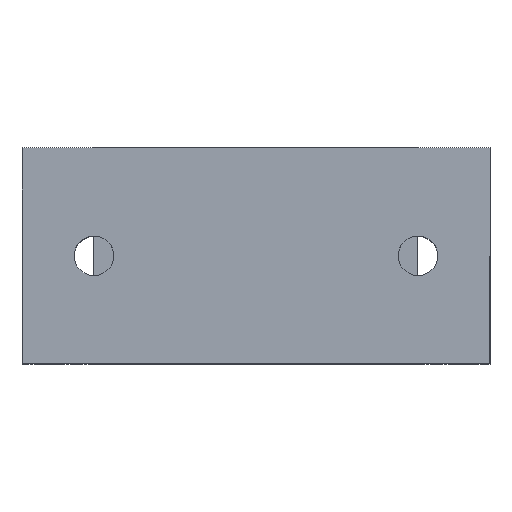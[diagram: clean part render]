
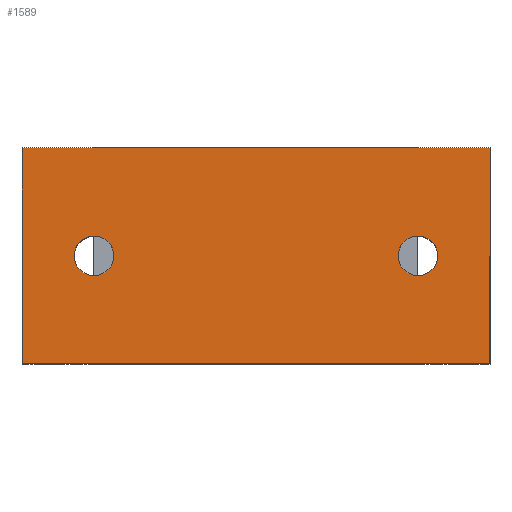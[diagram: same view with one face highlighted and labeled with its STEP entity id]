
A CAD part, top view. The second image highlights one B-rep face of the part: STEP entity #1589.
In plain terms, the highlighted planar face has unit normal (0, 0, 1).
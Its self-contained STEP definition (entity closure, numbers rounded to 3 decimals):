
#29 = CIRCLE ( 'NONE', #13992, 5.5 ) ;
#153 = ORIENTED_EDGE ( 'NONE', *, *, #6546, .T. ) ;
#242 = DIRECTION ( 'NONE',  ( 1., 0., 0. ) ) ;
#525 = VECTOR ( 'NONE', #8928, 1000. ) ;
#752 = DIRECTION ( 'NONE',  ( 0., 0., -1. ) ) ;
#840 = CARTESIAN_POINT ( 'NONE',  ( -65., 30., 21. ) ) ;
#864 = CARTESIAN_POINT ( 'NONE',  ( 39.5, 0., 21. ) ) ;
#1000 = VERTEX_POINT ( 'NONE', #1158 ) ;
#1065 = CARTESIAN_POINT ( 'NONE',  ( -65., 30., 21. ) ) ;
#1158 = CARTESIAN_POINT ( 'NONE',  ( -39.5, 0., 21. ) ) ;
#1530 = EDGE_CURVE ( 'NONE', #2537, #5830, #5476, .T. ) ;
#1589 = ADVANCED_FACE ( 'NONE', ( #11786, #8029, #8438 ), #10302, .T. ) ;
#1667 = CIRCLE ( 'NONE', #11857, 5.5 ) ;
#1864 = CARTESIAN_POINT ( 'NONE',  ( 65., 30., 21. ) ) ;
#2428 = CARTESIAN_POINT ( 'NONE',  ( 65., 30., 21. ) ) ;
#2537 = VERTEX_POINT ( 'NONE', #864 ) ;
#3223 = AXIS2_PLACEMENT_3D ( 'NONE', #5192, #14020, #6474 ) ;
#4796 = EDGE_CURVE ( 'NONE', #11461, #12064, #15508, .T. ) ;
#5050 = DIRECTION ( 'NONE',  ( 0., 0., -1. ) ) ;
#5192 = CARTESIAN_POINT ( 'NONE',  ( 45., 0., 21. ) ) ;
#5244 = CARTESIAN_POINT ( 'NONE',  ( -65., 30., 21. ) ) ;
#5442 = VECTOR ( 'NONE', #10958, 1000. ) ;
#5476 = CIRCLE ( 'NONE', #3223, 5.5 ) ;
#5830 = VERTEX_POINT ( 'NONE', #9556 ) ;
#5915 = ORIENTED_EDGE ( 'NONE', *, *, #7355, .F. ) ;
#6253 = DIRECTION ( 'NONE',  ( 1., 0., 0. ) ) ;
#6366 = CARTESIAN_POINT ( 'NONE',  ( 65., -30., 21. ) ) ;
#6474 = DIRECTION ( 'NONE',  ( -1., 0., 0. ) ) ;
#6546 = EDGE_CURVE ( 'NONE', #1000, #12041, #29, .T. ) ;
#7355 = EDGE_CURVE ( 'NONE', #15567, #9829, #13243, .T. ) ;
#7541 = DIRECTION ( 'NONE',  ( 0., 0., -1. ) ) ;
#7844 = DIRECTION ( 'NONE',  ( 0., 0., 1. ) ) ;
#8029 = FACE_BOUND ( 'NONE', #15596, .T. ) ;
#8340 = CARTESIAN_POINT ( 'NONE',  ( 45., 0., 21. ) ) ;
#8438 = FACE_OUTER_BOUND ( 'NONE', #9773, .T. ) ;
#8928 = DIRECTION ( 'NONE',  ( -1., 0., 0. ) ) ;
#8977 = CARTESIAN_POINT ( 'NONE',  ( 65., -30., 21. ) ) ;
#9149 = CARTESIAN_POINT ( 'NONE',  ( 65., 30., 21. ) ) ;
#9229 = ORIENTED_EDGE ( 'NONE', *, *, #15386, .F. ) ;
#9489 = VECTOR ( 'NONE', #6253, 1000. ) ;
#9556 = CARTESIAN_POINT ( 'NONE',  ( 50.5, 0., 21. ) ) ;
#9620 = DIRECTION ( 'NONE',  ( -1., 0., 0. ) ) ;
#9737 = EDGE_LOOP ( 'NONE', ( #14897, #153 ) ) ;
#9773 = EDGE_LOOP ( 'NONE', ( #5915, #9229, #13677, #10044 ) ) ;
#9804 = EDGE_CURVE ( 'NONE', #9829, #11461, #10637, .T. ) ;
#9829 = VERTEX_POINT ( 'NONE', #8977 ) ;
#10044 = ORIENTED_EDGE ( 'NONE', *, *, #9804, .F. ) ;
#10048 = AXIS2_PLACEMENT_3D ( 'NONE', #5244, #7844, #242 ) ;
#10302 = PLANE ( 'NONE',  #10048 ) ;
#10637 = LINE ( 'NONE', #6366, #525 ) ;
#10679 = AXIS2_PLACEMENT_3D ( 'NONE', #15090, #7541, #16375 ) ;
#10958 = DIRECTION ( 'NONE',  ( 0., 1., 0. ) ) ;
#11118 = CARTESIAN_POINT ( 'NONE',  ( -50.5, 0., 21. ) ) ;
#11258 = EDGE_CURVE ( 'NONE', #12041, #1000, #13983, .T. ) ;
#11461 = VERTEX_POINT ( 'NONE', #11671 ) ;
#11496 = ORIENTED_EDGE ( 'NONE', *, *, #1530, .T. ) ;
#11671 = CARTESIAN_POINT ( 'NONE',  ( -65., -30., 21. ) ) ;
#11786 = FACE_BOUND ( 'NONE', #9737, .T. ) ;
#11857 = AXIS2_PLACEMENT_3D ( 'NONE', #8340, #752, #9620 ) ;
#11991 = DIRECTION ( 'NONE',  ( 0., -1., 0. ) ) ;
#12041 = VERTEX_POINT ( 'NONE', #11118 ) ;
#12064 = VERTEX_POINT ( 'NONE', #1065 ) ;
#12629 = CARTESIAN_POINT ( 'NONE',  ( -45., 0., 21. ) ) ;
#13206 = LINE ( 'NONE', #2428, #9489 ) ;
#13243 = LINE ( 'NONE', #1864, #16219 ) ;
#13352 = EDGE_CURVE ( 'NONE', #5830, #2537, #1667, .T. ) ;
#13677 = ORIENTED_EDGE ( 'NONE', *, *, #4796, .F. ) ;
#13873 = DIRECTION ( 'NONE',  ( -1., 0., 0. ) ) ;
#13983 = CIRCLE ( 'NONE', #10679, 5.5 ) ;
#13992 = AXIS2_PLACEMENT_3D ( 'NONE', #12629, #5050, #13873 ) ;
#14020 = DIRECTION ( 'NONE',  ( 0., 0., -1. ) ) ;
#14897 = ORIENTED_EDGE ( 'NONE', *, *, #11258, .T. ) ;
#15090 = CARTESIAN_POINT ( 'NONE',  ( -45., 0., 21. ) ) ;
#15386 = EDGE_CURVE ( 'NONE', #12064, #15567, #13206, .T. ) ;
#15508 = LINE ( 'NONE', #840, #5442 ) ;
#15562 = ORIENTED_EDGE ( 'NONE', *, *, #13352, .T. ) ;
#15567 = VERTEX_POINT ( 'NONE', #9149 ) ;
#15596 = EDGE_LOOP ( 'NONE', ( #11496, #15562 ) ) ;
#16219 = VECTOR ( 'NONE', #11991, 1000. ) ;
#16375 = DIRECTION ( 'NONE',  ( -1., 0., 0. ) ) ;
